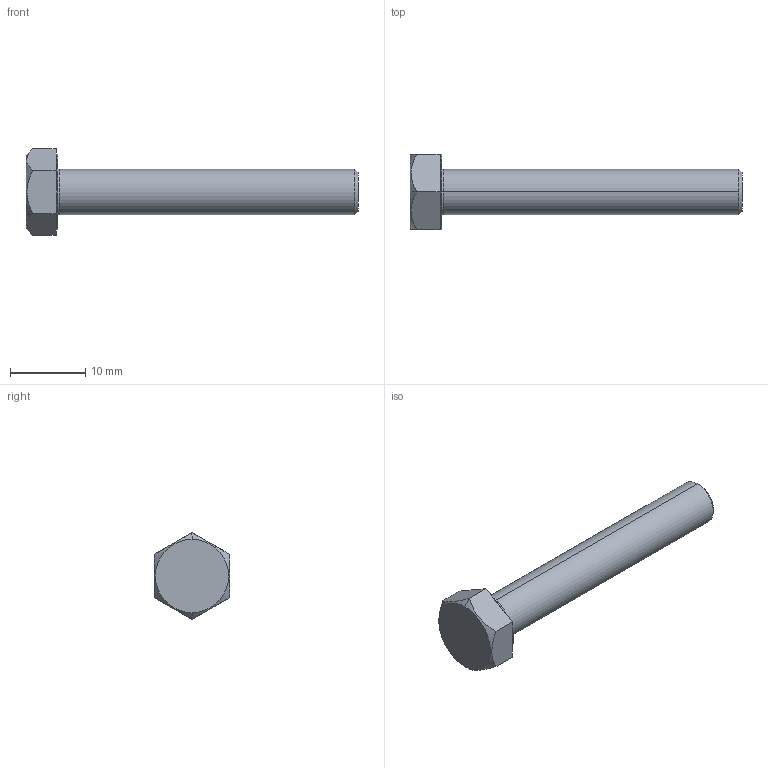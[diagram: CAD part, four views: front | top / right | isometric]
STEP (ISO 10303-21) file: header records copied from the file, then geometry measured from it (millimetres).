
FILE_DESCRIPTION (( 'STEP AP203' ), '1' );
FILE_NAME ('LGN-TD-M6x40.STEP', '2026-08-14T03:59:19', ( '' ), ( '' ), 'SwSTEP 2.0', 'SolidWorks 2020', '' );
FILE_SCHEMA (( 'CONFIG_CONTROL_DESIGN' ));
Length unit declared in the file: millimetre
Products named in the file (1): LGN-TD-M6x40
Bounding box: 44.2 x 10 x 11.55 mm (x, y, z)
Volume: 1488.7 mm3; surface area: 1057.2 mm2
Topology: 1 solids, 1 shells, 25 faces, 54 edges, 32 vertices
Faces by surface type: plane 15, cone 4, cylinder 4, torus 2
Entity records: 809 total; most frequent: CARTESIAN_POINT 182, DIRECTION 122, ORIENTED_EDGE 108, EDGE_CURVE 54, AXIS2_PLACEMENT_3D 48, VERTEX_POINT 32, LINE 26, EDGE_LOOP 26
